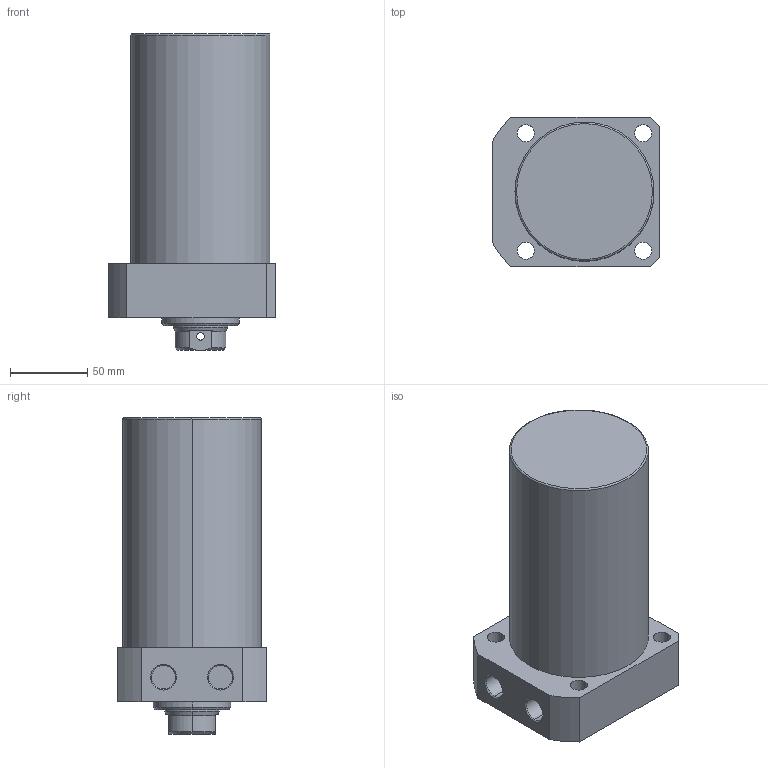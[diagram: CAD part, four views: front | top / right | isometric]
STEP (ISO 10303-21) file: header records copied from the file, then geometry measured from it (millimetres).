
FILE_DESCRIPTION (( 'STEP AP203' ), '1' );
FILE_NAME ('CLLR-090CB-105.STEP', '2019-12-18T06:15:01', ( '' ), ( '' ), 'SwSTEP 2.0', 'SolidWorks 2015', '' );
FILE_SCHEMA (( 'CONFIG_CONTROL_DESIGN' ));
Length unit declared in the file: millimetre
Products named in the file (1): CLLR-090CB-105
Bounding box: 108 x 97 x 205 mm (x, y, z)
Volume: 1296553.5 mm3; surface area: 87339.3 mm2
Topology: 1 solids, 1 shells, 69 faces, 163 edges, 102 vertices
Faces by surface type: cylinder 33, plane 19, cone 15, torus 2
Entity records: 2229 total; most frequent: CARTESIAN_POINT 497, DIRECTION 370, ORIENTED_EDGE 322, EDGE_CURVE 161, AXIS2_PLACEMENT_3D 151, VERTEX_POINT 102, EDGE_LOOP 89, CIRCLE 81
